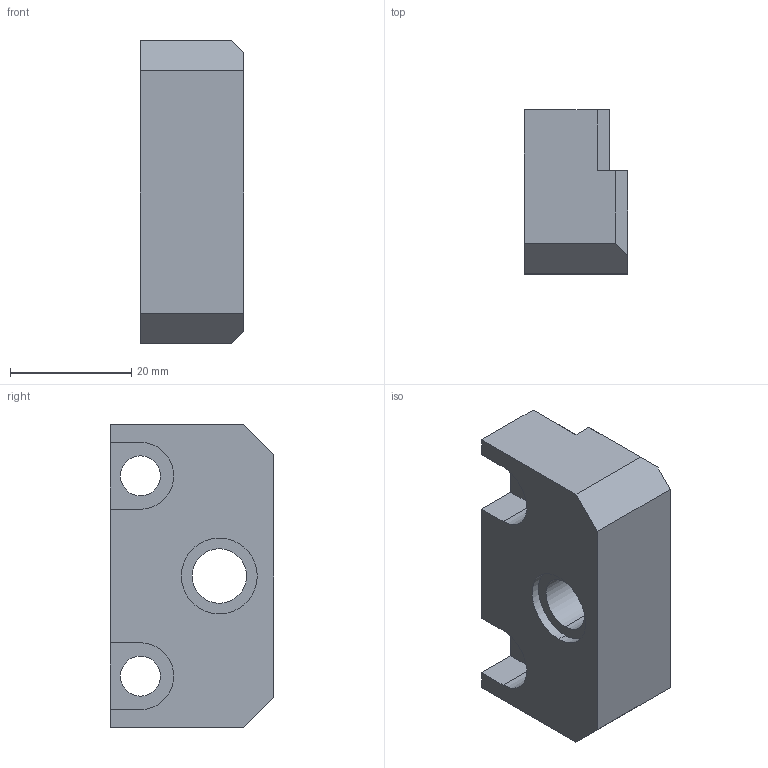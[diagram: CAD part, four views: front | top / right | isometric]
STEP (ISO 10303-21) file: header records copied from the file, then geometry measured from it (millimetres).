
FILE_DESCRIPTION (( 'STEP AP214' ), '1' );
FILE_NAME ('GZ30.08_V1肘夹推块.STEP', '2021-06-04T03:03:11', ( '微软中国' ), ( 'Microsoft' ), 'SwSTEP 2.0', 'SolidWorks 2017', '' );
FILE_SCHEMA (( 'AUTOMOTIVE_DESIGN' ));
Length unit declared in the file: millimetre
Products named in the file (1): GZ30.08_V1紵標芢輸
Bounding box: 17 x 27 x 50 mm (x, y, z)
Volume: 16859.4 mm3; surface area: 5971.6 mm2
Topology: 1 solids, 1 shells, 34 faces, 90 edges, 60 vertices
Faces by surface type: plane 22, cylinder 12
Entity records: 1104 total; most frequent: CARTESIAN_POINT 185, DIRECTION 184, ORIENTED_EDGE 180, EDGE_CURVE 90, VECTOR 66, LINE 66, VERTEX_POINT 60, AXIS2_PLACEMENT_3D 59
